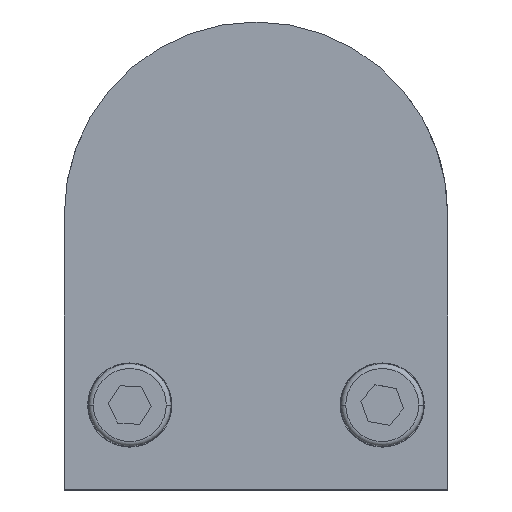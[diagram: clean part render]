
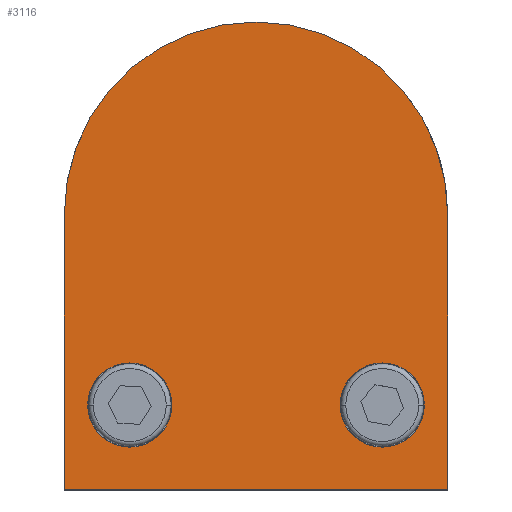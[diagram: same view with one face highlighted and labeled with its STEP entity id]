
A CAD part, top view. The second image highlights one B-rep face of the part: STEP entity #3116.
In plain terms, the highlighted planar face has unit normal (0, 0, 1).
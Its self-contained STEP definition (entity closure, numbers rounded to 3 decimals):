
#49 = EDGE_LOOP ( 'NONE', ( #1265, #1906 ) ) ;
#125 = CIRCLE ( 'NONE', #184, 4.5 ) ;
#160 = VERTEX_POINT ( 'NONE', #2122 ) ;
#174 = AXIS2_PLACEMENT_3D ( 'NONE', #3057, #3121, #494 ) ;
#184 = AXIS2_PLACEMENT_3D ( 'NONE', #1197, #2223, #679 ) ;
#216 = CARTESIAN_POINT ( 'NONE',  ( 20.5, 59.5, 14.25 ) ) ;
#273 = CARTESIAN_POINT ( 'NONE',  ( 9., 39.038, 14.25 ) ) ;
#364 = VERTEX_POINT ( 'NONE', #1454 ) ;
#376 = AXIS2_PLACEMENT_3D ( 'NONE', #409, #641, #1437 ) ;
#386 = LINE ( 'NONE', #2471, #3247 ) ;
#409 = CARTESIAN_POINT ( 'NONE',  ( 0., 59.5, 14.25 ) ) ;
#494 = DIRECTION ( 'NONE',  ( 1., 0., 0. ) ) ;
#500 = VERTEX_POINT ( 'NONE', #273 ) ;
#513 = CARTESIAN_POINT ( 'NONE',  ( 13.5, 39.038, 14.25 ) ) ;
#521 = VERTEX_POINT ( 'NONE', #2065 ) ;
#564 = ORIENTED_EDGE ( 'NONE', *, *, #2492, .F. ) ;
#579 = AXIS2_PLACEMENT_3D ( 'NONE', #513, #2335, #997 ) ;
#591 = EDGE_CURVE ( 'NONE', #1377, #1773, #2371, .T. ) ;
#641 = DIRECTION ( 'NONE',  ( 0., 0., 1. ) ) ;
#665 = EDGE_CURVE ( 'NONE', #1773, #364, #850, .T. ) ;
#679 = DIRECTION ( 'NONE',  ( 1., 0., 0. ) ) ;
#745 = CIRCLE ( 'NONE', #1184, 4.5 ) ;
#792 = AXIS2_PLACEMENT_3D ( 'NONE', #2131, #2146, #2926 ) ;
#808 = CARTESIAN_POINT ( 'NONE',  ( 13.5, 39.038, 14.25 ) ) ;
#822 = CARTESIAN_POINT ( 'NONE',  ( -20.5, 30., 14.25 ) ) ;
#843 = EDGE_CURVE ( 'NONE', #521, #500, #1997, .T. ) ;
#849 = EDGE_LOOP ( 'NONE', ( #1658, #564 ) ) ;
#850 = CIRCLE ( 'NONE', #792, 20.5 ) ;
#997 = DIRECTION ( 'NONE',  ( 1., 0., 0. ) ) ;
#1051 = CARTESIAN_POINT ( 'NONE',  ( -9., 39.038, 14.25 ) ) ;
#1111 = ORIENTED_EDGE ( 'NONE', *, *, #1542, .T. ) ;
#1140 = EDGE_CURVE ( 'NONE', #2833, #160, #125, .T. ) ;
#1158 = EDGE_LOOP ( 'NONE', ( #1592, #1683, #2450, #1111 ) ) ;
#1184 = AXIS2_PLACEMENT_3D ( 'NONE', #808, #1643, #2105 ) ;
#1197 = CARTESIAN_POINT ( 'NONE',  ( -13.5, 39.038, 14.25 ) ) ;
#1254 = CIRCLE ( 'NONE', #174, 4.5 ) ;
#1265 = ORIENTED_EDGE ( 'NONE', *, *, #843, .F. ) ;
#1376 = CARTESIAN_POINT ( 'NONE',  ( 20.5, 30., 14.25 ) ) ;
#1377 = VERTEX_POINT ( 'NONE', #1376 ) ;
#1415 = DIRECTION ( 'NONE',  ( 0., 1., 0. ) ) ;
#1437 = DIRECTION ( 'NONE',  ( 1., 0., 0. ) ) ;
#1454 = CARTESIAN_POINT ( 'NONE',  ( -20.5, 59.5, 14.25 ) ) ;
#1542 = EDGE_CURVE ( 'NONE', #364, #2919, #386, .T. ) ;
#1592 = ORIENTED_EDGE ( 'NONE', *, *, #2156, .F. ) ;
#1643 = DIRECTION ( 'NONE',  ( 0., 0., 1. ) ) ;
#1658 = ORIENTED_EDGE ( 'NONE', *, *, #1140, .F. ) ;
#1671 = LINE ( 'NONE', #2656, #2741 ) ;
#1683 = ORIENTED_EDGE ( 'NONE', *, *, #591, .T. ) ;
#1773 = VERTEX_POINT ( 'NONE', #216 ) ;
#1848 = EDGE_CURVE ( 'NONE', #500, #521, #745, .T. ) ;
#1906 = ORIENTED_EDGE ( 'NONE', *, *, #1848, .F. ) ;
#1997 = CIRCLE ( 'NONE', #579, 4.5 ) ;
#2065 = CARTESIAN_POINT ( 'NONE',  ( 18., 39.038, 14.25 ) ) ;
#2105 = DIRECTION ( 'NONE',  ( 1., 0., 0. ) ) ;
#2122 = CARTESIAN_POINT ( 'NONE',  ( -18., 39.038, 14.25 ) ) ;
#2131 = CARTESIAN_POINT ( 'NONE',  ( 0., 59.5, 14.25 ) ) ;
#2146 = DIRECTION ( 'NONE',  ( 0., 0., 1. ) ) ;
#2156 = EDGE_CURVE ( 'NONE', #1377, #2919, #1671, .T. ) ;
#2217 = DIRECTION ( 'NONE',  ( 0., -1., 0. ) ) ;
#2223 = DIRECTION ( 'NONE',  ( 0., 0., 1. ) ) ;
#2335 = DIRECTION ( 'NONE',  ( 0., 0., 1. ) ) ;
#2371 = LINE ( 'NONE', #2628, #2823 ) ;
#2450 = ORIENTED_EDGE ( 'NONE', *, *, #665, .T. ) ;
#2471 = CARTESIAN_POINT ( 'NONE',  ( -20.5, 0., 14.25 ) ) ;
#2492 = EDGE_CURVE ( 'NONE', #160, #2833, #1254, .T. ) ;
#2628 = CARTESIAN_POINT ( 'NONE',  ( 20.5, 0., 14.25 ) ) ;
#2656 = CARTESIAN_POINT ( 'NONE',  ( 0., 30., 14.25 ) ) ;
#2693 = FACE_OUTER_BOUND ( 'NONE', #1158, .T. ) ;
#2712 = PLANE ( 'NONE',  #376 ) ;
#2741 = VECTOR ( 'NONE', #2956, 1000. ) ;
#2823 = VECTOR ( 'NONE', #1415, 1000. ) ;
#2833 = VERTEX_POINT ( 'NONE', #1051 ) ;
#2919 = VERTEX_POINT ( 'NONE', #822 ) ;
#2926 = DIRECTION ( 'NONE',  ( 1., 0., 0. ) ) ;
#2956 = DIRECTION ( 'NONE',  ( -1., 0., 0. ) ) ;
#3057 = CARTESIAN_POINT ( 'NONE',  ( -13.5, 39.038, 14.25 ) ) ;
#3116 = ADVANCED_FACE ( 'NONE', ( #3217, #3204, #2693 ), #2712, .T. ) ;
#3121 = DIRECTION ( 'NONE',  ( 0., 0., 1. ) ) ;
#3204 = FACE_BOUND ( 'NONE', #49, .T. ) ;
#3217 = FACE_BOUND ( 'NONE', #849, .T. ) ;
#3247 = VECTOR ( 'NONE', #2217, 1000. ) ;
